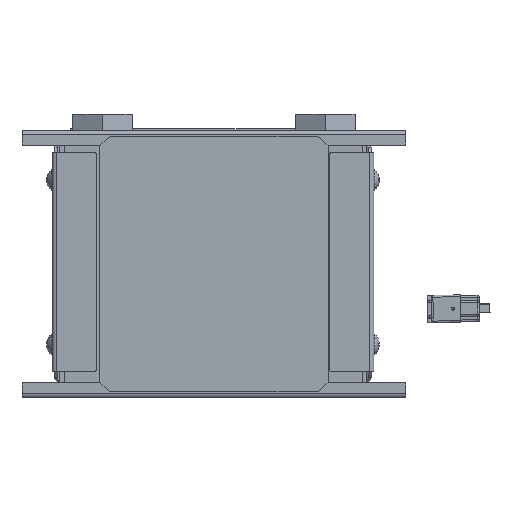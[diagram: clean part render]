
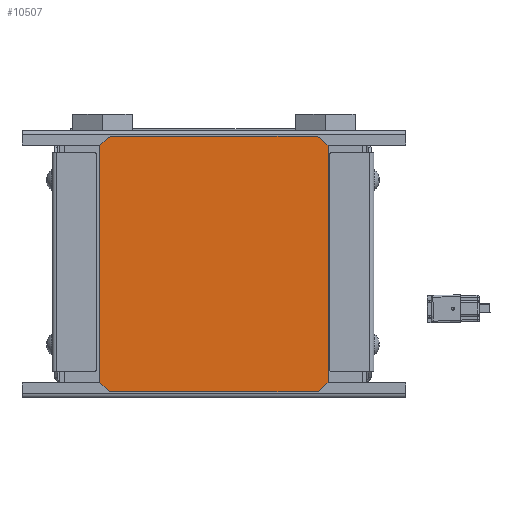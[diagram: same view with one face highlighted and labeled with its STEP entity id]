
A CAD part, top view. The second image highlights one B-rep face of the part: STEP entity #10507.
In plain terms, the highlighted planar face has unit normal (0, 0, 1).
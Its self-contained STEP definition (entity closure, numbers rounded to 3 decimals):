
#10379=CARTESIAN_POINT('',(145.824,-123.02,45.5));
#10380=VERTEX_POINT('',#10379);
#10381=CARTESIAN_POINT('',(145.824,7.105,45.5));
#10382=VERTEX_POINT('',#10381);
#10383=CARTESIAN_POINT('',(145.824,-123.02,45.5));
#10384=DIRECTION('',(0.0,1.0,0.0));
#10385=VECTOR('',#10384,130.125);
#10386=LINE('',#10383,#10385);
#10387=EDGE_CURVE('',#10380,#10382,#10386,.T.);
#10419=CARTESIAN_POINT('',(20.814,7.105,45.5));
#10420=VERTEX_POINT('',#10419);
#10421=CARTESIAN_POINT('',(20.814,-123.02,45.5));
#10422=VERTEX_POINT('',#10421);
#10423=CARTESIAN_POINT('',(20.814,7.105,45.5));
#10424=DIRECTION('',(0.0,-1.0,0.0));
#10425=VECTOR('',#10424,130.125);
#10426=LINE('',#10423,#10425);
#10427=EDGE_CURVE('',#10420,#10422,#10426,.T.);
#10454=CARTESIAN_POINT('',(83.319,-57.958,45.5));
#10455=DIRECTION('',(0.0,0.0,1.0));
#10456=DIRECTION('',(1.0,0.0,0.0));
#10457=AXIS2_PLACEMENT_3D('',#10454,#10455,#10456);
#10458=PLANE('',#10457);
#10459=CARTESIAN_POINT('',(26.814,-127.958,45.5));
#10460=VERTEX_POINT('',#10459);
#10461=CARTESIAN_POINT('',(139.824,-127.958,45.5));
#10462=VERTEX_POINT('',#10461);
#10463=CARTESIAN_POINT('',(26.814,-127.958,45.5));
#10464=DIRECTION('',(1.0,0.0,0.0));
#10465=VECTOR('',#10464,113.01);
#10466=LINE('',#10463,#10465);
#10467=EDGE_CURVE('',#10460,#10462,#10466,.T.);
#10468=ORIENTED_EDGE('',*,*,#10467,.T.);
#10469=CARTESIAN_POINT('',(139.824,-127.958,45.5));
#10470=DIRECTION('',(0.772,0.635,0.0));
#10471=VECTOR('',#10470,7.77);
#10472=LINE('',#10469,#10471);
#10473=EDGE_CURVE('',#10462,#10380,#10472,.T.);
#10474=ORIENTED_EDGE('',*,*,#10473,.T.);
#10475=ORIENTED_EDGE('',*,*,#10387,.T.);
#10476=CARTESIAN_POINT('',(139.824,12.042,45.5));
#10477=VERTEX_POINT('',#10476);
#10478=CARTESIAN_POINT('',(145.824,7.105,45.5));
#10479=DIRECTION('',(-0.772,0.635,0.0));
#10480=VECTOR('',#10479,7.77);
#10481=LINE('',#10478,#10480);
#10482=EDGE_CURVE('',#10382,#10477,#10481,.T.);
#10483=ORIENTED_EDGE('',*,*,#10482,.T.);
#10484=CARTESIAN_POINT('',(26.814,12.042,45.5));
#10485=VERTEX_POINT('',#10484);
#10486=CARTESIAN_POINT('',(139.824,12.042,45.5));
#10487=DIRECTION('',(-1.0,0.0,0.0));
#10488=VECTOR('',#10487,113.01);
#10489=LINE('',#10486,#10488);
#10490=EDGE_CURVE('',#10477,#10485,#10489,.T.);
#10491=ORIENTED_EDGE('',*,*,#10490,.T.);
#10492=CARTESIAN_POINT('',(26.814,12.042,45.5));
#10493=DIRECTION('',(-0.772,-0.635,0.0));
#10494=VECTOR('',#10493,7.77);
#10495=LINE('',#10492,#10494);
#10496=EDGE_CURVE('',#10485,#10420,#10495,.T.);
#10497=ORIENTED_EDGE('',*,*,#10496,.T.);
#10498=ORIENTED_EDGE('',*,*,#10427,.T.);
#10499=CARTESIAN_POINT('',(20.814,-123.02,45.5));
#10500=DIRECTION('',(0.772,-0.635,0.0));
#10501=VECTOR('',#10500,7.77);
#10502=LINE('',#10499,#10501);
#10503=EDGE_CURVE('',#10422,#10460,#10502,.T.);
#10504=ORIENTED_EDGE('',*,*,#10503,.T.);
#10505=EDGE_LOOP('',(#10468,#10474,#10475,#10483,#10491,#10497,#10498,#10504));
#10506=FACE_OUTER_BOUND('',#10505,.T.);
#10507=ADVANCED_FACE('',(#10506),#10458,.T.);
